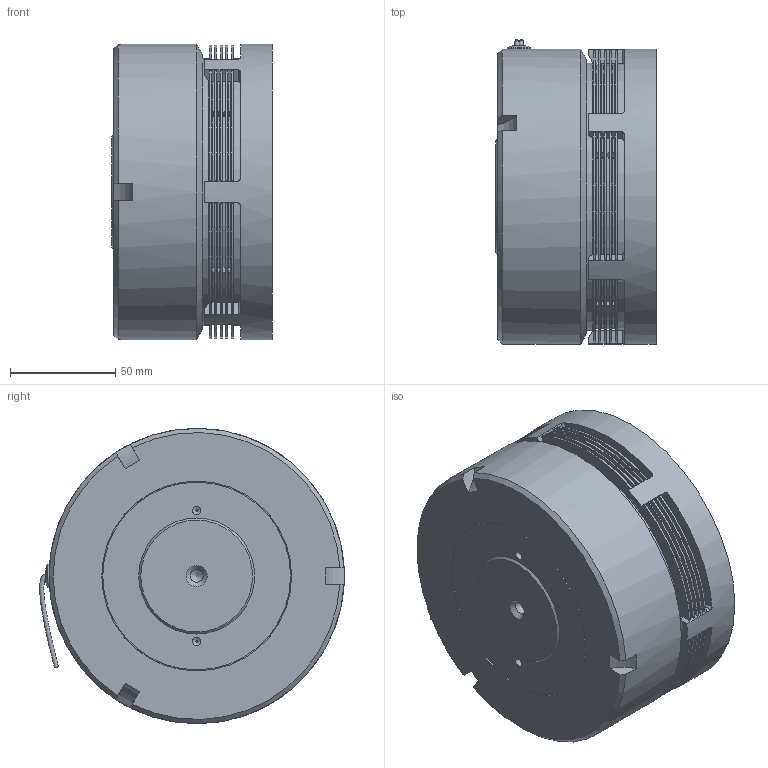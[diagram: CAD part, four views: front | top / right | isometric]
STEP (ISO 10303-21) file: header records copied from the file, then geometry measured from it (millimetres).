
FILE_DESCRIPTION(/* description */ (''),/* implementation_level */ '2;1');
FILE_NAME(/* name */ '\\Srv-tecnico\DATI\UFFICIO TECNICO\ARCHIVIO INVENTOR\DISEGNI\UFFICIO TECNICO\05_Friz_Elettromagnetiche_Lamellari\05_05 ESB_S\05_05_140_01 ESB140_S\05_05_140_01 ESB-140@STEP.stp',/* time_stamp */ '2015-02-12T09:39:22+01:00',/* author */ ('stefano'),/* organization */ (''),/* preprocessor_version */ 'ST-DEVELOPER v15.6',/* originating_system */ 'Autodesk Inventor 2015',/* authorisation */ '');
FILE_SCHEMA (('AUTOMOTIVE_DESIGN { 1 0 10303 214 3 1 1 }'));
Products named in the file (1): 05_05_140_01 ESB-140_Substitute_1
Bounding box: 76 x 144.44 x 140 mm (x, y, z)
Volume: 812314.8 mm3; surface area: 337346.8 mm2
Topology: 8 solids, 8 shells, 2009 faces, 7241 edges, 4683 vertices
Faces by surface type: cylinder 1443, plane 349, bspline 127, cone 51, torus 28, sphere 11
Full cylindrical faces by diameter (mm): 3.5 x2, 4 x3, 6 x2, 9 x1, 11 x1, 55 x1, 65 x1, 66.2 x2, 69 x1, 70 x1, 73 x1, 74 x1, 78 x1, 78.8 x2, 89 x1, 90 x3, 91 x1, 93 x1, 93.5 x1, 100 x2, 111 x1, 122 x2, 126.5 x2, 127 x2, 140 x2
Entity records: 89351 total; most frequent: CARTESIAN_POINT 26009, ORIENTED_EDGE 14272, DIRECTION 12492, EDGE_CURVE 7131, AXIS2_PLACEMENT_3D 5150, VERTEX_POINT 4640, CIRCLE 3243, EDGE_LOOP 2477
